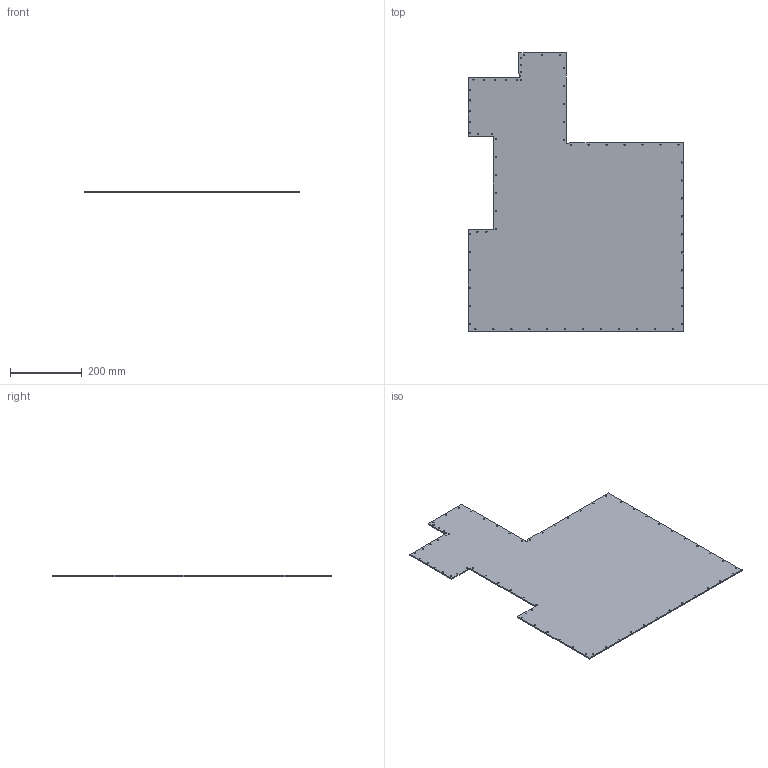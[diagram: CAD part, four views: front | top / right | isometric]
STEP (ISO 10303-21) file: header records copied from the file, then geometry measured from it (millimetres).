
FILE_DESCRIPTION(/* description */ (''),/* implementation_level */ '2;1');
FILE_NAME(/* name */ 'C:\Users\strothej\Documents\ActualDocuments\MicroscopeParts\TwoPhotonSystem\ScanningMechanics\v34\Drawings\Enclosure_Panel_Lid.stp',/* time_stamp */ '2017-09-18T12:56:16-07:00',/* author */ ('strothej'),/* organization */ (''),/* preprocessor_version */ 'ST-DEVELOPER v16.1',/* originating_system */ 'Autodesk Inventor 2016',/* authorisation */ '');
FILE_SCHEMA (('AUTOMOTIVE_DESIGN { 1 0 10303 214 3 1 1 }'));
Length unit declared in the file: millimetre
Products named in the file (1): Enclosure_Panel_Lid
Bounding box: 600 x 775 x 3.26 mm (x, y, z)
Volume: 1156022 mm3; surface area: 720922.7 mm2
Topology: 1 solids, 1 shells, 95 faces, 346 edges, 253 vertices
Faces by surface type: cylinder 79, plane 16
Full cylindrical faces by diameter (mm): 3.3 x67
Entity records: 3208 total; most frequent: DIRECTION 562, CARTESIAN_POINT 494, ORIENTED_EDGE 424, EDGE_LOOP 296, AXIS2_PLACEMENT_3D 254, EDGE_CURVE 212, FACE_BOUND 201, VERTEX_POINT 186
